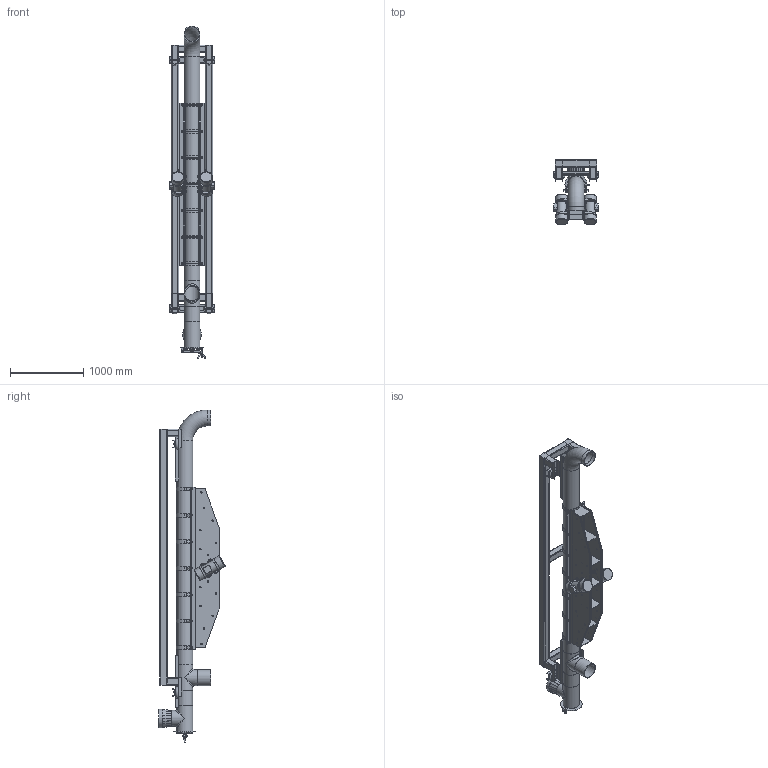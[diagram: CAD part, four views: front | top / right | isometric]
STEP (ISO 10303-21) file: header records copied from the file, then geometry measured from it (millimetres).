
FILE_DESCRIPTION(/* description */ ('Assembly > iProperties > Project > Description'),/* implementation_level */ '2;1');
FILE_NAME(/* name */ 'Z:\CUSTOMER ORDERS\P\Phibro Animal Health Corporation\20837\Inventor Files\Tube Feeder.stp',/* time_stamp */ '2021-07-15T14:47:06-05:00',/* author */ ('rwest'),/* organization */ (''),/* preprocessor_version */ 'ST-DEVELOPER v17',/* originating_system */ 'Autodesk Inventor 2019',/* authorisation */ '');
FILE_SCHEMA (('AUTOMOTIVE_DESIGN { 1 0 10303 214 3 1 1 }'));
Length unit declared in the file: inch
Products named in the file (74): 006334; 006335; 006335 - 6; A-3x3x1/2-CS - 87.5; 85-3/4x13x1/4; A-3x3x1/2-CS - 87.5_1; 15-15/16x7-1/4x1/4; 13-1/8x7-1/4x1/4; 7-15/16x7-1/4x1/4; 2x1/4 - 7-13/16; 9x7x1/4-S4; 006335 - 7; 2x1/4 - 19-1/16; 1/2-13 UNCx3-5/8; 1-1/2x1-1/4x1/4; FW-1/2-CS; LN-1/2-13-CS; 9407K22; Bolted Connection; FW-1/2-S4; Bolted Connection_1; HB-7/16-14 UNC-2.25-S4; Bolted Connection_2; HB-7/16-14 UNC-2.5-S4; FW-7/16-S4; LN-7/16-14-S4; 006335 - 2; 7-3/4ODx1-1/2x10G; 8-3/4OD-1/4-S4; FB-1x1/4-S4 - 1.75; 006335 - 5; 90268A033; Cut from Auger Scrap; 006335 - 3; 9-5/8x1-1/4x1/2-S4; 2-1/4x1-5/8x1/4-S4; 006335 - 4; 89895K754; 1/2-13 UNCx4; 006335 - 1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
Assembly tree (228 placements, depth 4):
  006334
    006335
      006335 - 6
        85-3/4x13x1/4  x2
        A-3x3x1/2-CS - 87.5
        A-3x3x1/2-CS - 87.5_1
        7-15/16x7-1/4x1/4  x2
        13-1/8x7-1/4x1/4  x2
        15-15/16x7-1/4x1/4  x3
        2x1/4 - 7-13/16  x7
        9x7x1/4-S4  x2
      006335 - 7  x7
        2x1/4 - 19-1/16
        1/2-13 UNCx3-5/8
        1-1/2x1-1/4x1/4
      FW-1/2-CS  x14
      LN-1/2-13-CS  x14
      9407K22
      Bolted Connection
        FW-7/16-S4  x2
        HB-7/16-14 UNC-2.25-S4
        LN-7/16-14-S4
      FW-1/2-S4
      Bolted Connection_1
        FW-7/16-S4  x2
        HB-7/16-14 UNC-2.25-S4
        LN-7/16-14-S4
      Bolted Connection_2
        FW-7/16-S4  x2
        HB-7/16-14 UNC-2.5-S4
        LN-7/16-14-S4
      006335 - 2
        7-3/4ODx1-1/2x10G
        8-3/4OD-1/4-S4
        FB-1x1/4-S4 - 1.75  x2
      006335 - 5
        90268A033
        Cut from Auger Scrap  x2
      006335 - 3
        89895K754
        9-5/8x1-1/4x1/2-S4
        2-1/4x1-5/8x1/4-S4
      006335 - 4
        89895K754
        1/2-13 UNCx4
      006335 - 1
        8in SCH40 - 120-13/16
        6in tee  x2
        12inODx7-3/4inIDx1/4-S4
        15-1/4x5-5/8x10G  x2
        10ODx2x10G-S4
        SC-4x4.5-S4-24  x2
        8in Elbow
        8in SCH40 - 8
        8in SCH40 - 2
        8in SCH40 - 7-13/16
        SC-C6x8.2-S4-28  x2
        FB-1x1/4-S4 - 2.5  x2
        FB-1x1/4-S4 - 1  x2
      Spacer Plate  x2
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Bounding box: 617.65 x 906.72 x 4547.55 mm (x, y, z)
Volume: 114285062.8 mm3; surface area: 26613585.3 mm2
Topology: 239 solids, 247 shells, 2923 faces, 6627 edges, 4209 vertices
Faces by surface type: plane 1571, cylinder 759, cone 471, torus 76, bspline 46
Full cylindrical faces by diameter (mm): 2.54 x2, 6.35 x4, 9.144 x3, 9.525 x32, 10.162 x14, 10.312 x16, 10.592 x14, 11.112 x3, 11.481 x3, 11.913 x6, 12.7 x54, 13.386 x8, 13.487 x15, 14.275 x16, 14.843 x3, 15.875 x31, 16.192 x14, 16.307 x8, 16.662 x16, 18 x24, 19.05 x66, 20.241 x8, 23.825 x8, 25.4 x16, 28.575 x6, 31.75 x15, 44.45 x16, 170 x4, 183.667 x1, 190.5 x1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
Entity records: 31411 total; most frequent: CARTESIAN_POINT 8492, DIRECTION 4626, ORIENTED_EDGE 3848, EDGE_CURVE 1924, AXIS2_PLACEMENT_3D 1826, VERTEX_POINT 1248, EDGE_LOOP 1010, LINE 974
